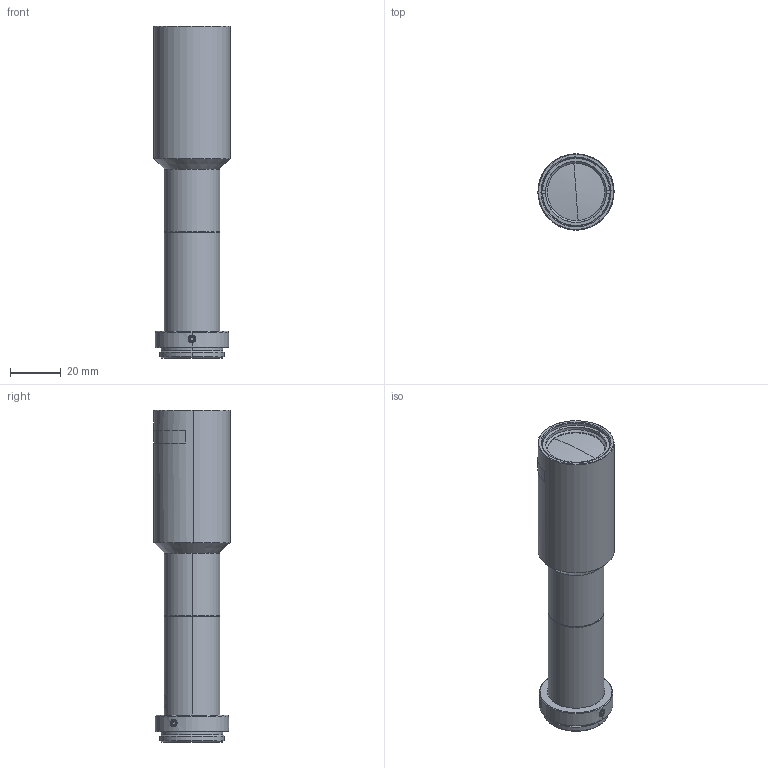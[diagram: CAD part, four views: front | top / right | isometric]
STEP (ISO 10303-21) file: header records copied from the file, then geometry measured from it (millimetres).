
FILE_DESCRIPTION (( 'STEP AP214' ), '1' );
FILE_NAME ('TEC-M10110MP_210312.STEP', '2021-03-12T00:05:28', ( '' ), ( '' ), 'SwSTEP 2.0', 'SolidWorks 2019', '' );
FILE_SCHEMA (( 'AUTOMOTIVE_DESIGN' ));
Length unit declared in the file: millimetre
Products named in the file (1): TEC-M10110MP_210312
Bounding box: 29.99 x 30.04 x 130.73 mm (x, y, z)
Volume: 35271.1 mm3; surface area: 24869.2 mm2
Topology: 10 solids, 10 shells, 287 faces, 625 edges, 384 vertices
Faces by surface type: cone 107, cylinder 92, plane 76, bspline 8, sphere 4
Entity records: 12486 total; most frequent: CARTESIAN_POINT 2789, DIRECTION 1421, ORIENTED_EDGE 1250, EDGE_CURVE 625, AXIS2_PLACEMENT_3D 573, VERTEX_POINT 384, EDGE_LOOP 329, UNCERTAINTY_MEASURE_WITH_UNIT 299
